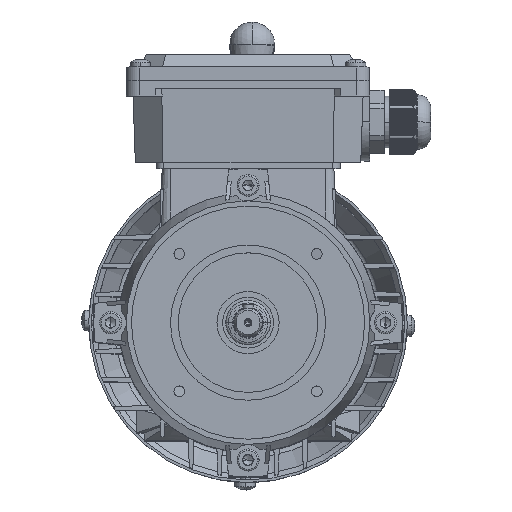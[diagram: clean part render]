
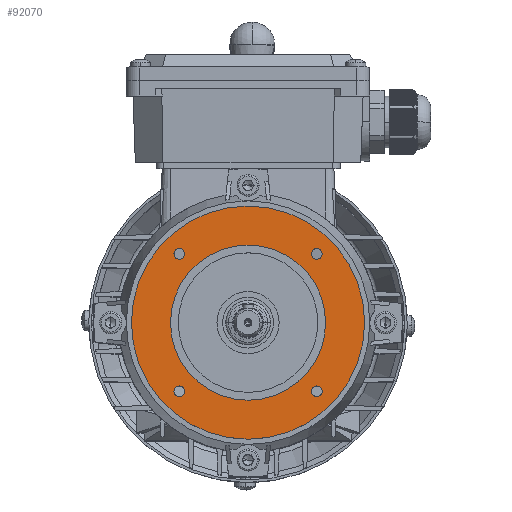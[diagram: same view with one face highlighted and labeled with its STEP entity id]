
A CAD part, top view. The second image highlights one B-rep face of the part: STEP entity #92070.
In plain terms, the highlighted planar face has unit normal (0, 0, 1).
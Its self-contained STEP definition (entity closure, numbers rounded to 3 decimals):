
#747 = DIRECTION ( 'NONE',  ( 1., 0., 0. ) ) ;
#1282 = CIRCLE ( 'NONE', #23683, 2.067 ) ;
#4042 = CIRCLE ( 'NONE', #90404, 2.067 ) ;
#4844 = ORIENTED_EDGE ( 'NONE', *, *, #24877, .F. ) ;
#8507 = CARTESIAN_POINT ( 'NONE',  ( -47.098, -0.551, 80.5 ) ) ;
#8542 = CIRCLE ( 'NONE', #93006, 2.067 ) ;
#9574 = DIRECTION ( 'NONE',  ( 0., 0., -1. ) ) ;
#10839 = CARTESIAN_POINT ( 'NONE',  ( -28.615, -27.067, 80.5 ) ) ;
#11089 = CARTESIAN_POINT ( 'NONE',  ( -28.615, 25.966, 80.5 ) ) ;
#11823 = CARTESIAN_POINT ( 'NONE',  ( -28.615, 28.033, 80.5 ) ) ;
#12352 = VERTEX_POINT ( 'NONE', #79761 ) ;
#14104 = DIRECTION ( 'NONE',  ( 0., -1., 0. ) ) ;
#15318 = ORIENTED_EDGE ( 'NONE', *, *, #43553, .T. ) ;
#15521 = DIRECTION ( 'NONE',  ( 0., -1., 0. ) ) ;
#16289 = CARTESIAN_POINT ( 'NONE',  ( -2.098, -0.551, 80.5 ) ) ;
#18531 = AXIS2_PLACEMENT_3D ( 'NONE', #88044, #62736, #71541 ) ;
#19356 = ORIENTED_EDGE ( 'NONE', *, *, #101704, .F. ) ;
#19531 = CARTESIAN_POINT ( 'NONE',  ( -2.098, -0.551, 80.5 ) ) ;
#21156 = DIRECTION ( 'NONE',  ( 1., 0., 0. ) ) ;
#22940 = EDGE_CURVE ( 'NONE', #91717, #88583, #51106, .T. ) ;
#23502 = DIRECTION ( 'NONE',  ( 0., 0., -1. ) ) ;
#23505 = DIRECTION ( 'NONE',  ( 0., -1., 0. ) ) ;
#23683 = AXIS2_PLACEMENT_3D ( 'NONE', #10839, #37772, #38348 ) ;
#23842 = DIRECTION ( 'NONE',  ( 0., -1., 0. ) ) ;
#24877 = EDGE_CURVE ( 'NONE', #26723, #33753, #83616, .T. ) ;
#25765 = DIRECTION ( 'NONE',  ( 1., 0., 0. ) ) ;
#25799 = EDGE_CURVE ( 'NONE', #55417, #72694, #33049, .T. ) ;
#26168 = ORIENTED_EDGE ( 'NONE', *, *, #105430, .T. ) ;
#26723 = VERTEX_POINT ( 'NONE', #104117 ) ;
#29100 = CARTESIAN_POINT ( 'NONE',  ( 24.418, -27.067, 80.5 ) ) ;
#29138 = FACE_BOUND ( 'NONE', #55492, .T. ) ;
#33049 = CIRCLE ( 'NONE', #100661, 29.945 ) ;
#33753 = VERTEX_POINT ( 'NONE', #8507 ) ;
#35650 = AXIS2_PLACEMENT_3D ( 'NONE', #58809, #68242, #23505 ) ;
#37261 = ORIENTED_EDGE ( 'NONE', *, *, #52774, .T. ) ;
#37772 = DIRECTION ( 'NONE',  ( 0., 0., -1. ) ) ;
#38348 = DIRECTION ( 'NONE',  ( 0., -1., 0. ) ) ;
#42660 = ORIENTED_EDGE ( 'NONE', *, *, #71825, .T. ) ;
#43553 = EDGE_CURVE ( 'NONE', #96579, #80122, #8542, .T. ) ;
#43810 = ORIENTED_EDGE ( 'NONE', *, *, #87833, .T. ) ;
#44614 = DIRECTION ( 'NONE',  ( 0., -1., 0. ) ) ;
#44786 = CARTESIAN_POINT ( 'NONE',  ( -28.615, 25.966, 80.5 ) ) ;
#45040 = EDGE_CURVE ( 'NONE', #88583, #91717, #60732, .T. ) ;
#47755 = ORIENTED_EDGE ( 'NONE', *, *, #45040, .T. ) ;
#50977 = EDGE_LOOP ( 'NONE', ( #47755, #74714 ) ) ;
#51106 = CIRCLE ( 'NONE', #64409, 2.067 ) ;
#52774 = EDGE_CURVE ( 'NONE', #97306, #12352, #95695, .T. ) ;
#53628 = CARTESIAN_POINT ( 'NONE',  ( -32.043, -0.551, 80.5 ) ) ;
#53973 = VERTEX_POINT ( 'NONE', #11823 ) ;
#55417 = VERTEX_POINT ( 'NONE', #90900 ) ;
#55466 = CIRCLE ( 'NONE', #100520, 2.067 ) ;
#55492 = EDGE_LOOP ( 'NONE', ( #100946, #26168 ) ) ;
#55647 = FACE_OUTER_BOUND ( 'NONE', #112732, .T. ) ;
#57530 = EDGE_LOOP ( 'NONE', ( #111183, #42660 ) ) ;
#58251 = CARTESIAN_POINT ( 'NONE',  ( 24.418, 23.899, 80.5 ) ) ;
#58435 = VERTEX_POINT ( 'NONE', #68809 ) ;
#58809 = CARTESIAN_POINT ( 'NONE',  ( 24.418, -27.067, 80.5 ) ) ;
#60224 = DIRECTION ( 'NONE',  ( 0., 0., -1. ) ) ;
#60426 = DIRECTION ( 'NONE',  ( 1., 0., 0. ) ) ;
#60601 = DIRECTION ( 'NONE',  ( 0., 0., -1. ) ) ;
#60732 = CIRCLE ( 'NONE', #73920, 2.067 ) ;
#62736 = DIRECTION ( 'NONE',  ( 0., 0., -1. ) ) ;
#64213 = AXIS2_PLACEMENT_3D ( 'NONE', #16289, #69238, #60426 ) ;
#64409 = AXIS2_PLACEMENT_3D ( 'NONE', #94627, #23502, #14104 ) ;
#65089 = FACE_BOUND ( 'NONE', #112640, .T. ) ;
#65432 = CARTESIAN_POINT ( 'NONE',  ( 24.418, 28.033, 80.5 ) ) ;
#66724 = AXIS2_PLACEMENT_3D ( 'NONE', #112748, #74697, #21156 ) ;
#66806 = CARTESIAN_POINT ( 'NONE',  ( -28.615, -29.134, 80.5 ) ) ;
#68242 = DIRECTION ( 'NONE',  ( 0., 0., -1. ) ) ;
#68809 = CARTESIAN_POINT ( 'NONE',  ( -28.615, 23.899, 80.5 ) ) ;
#69238 = DIRECTION ( 'NONE',  ( 0., 0., -1. ) ) ;
#70604 = CARTESIAN_POINT ( 'NONE',  ( -28.615, -27.067, 80.5 ) ) ;
#71541 = DIRECTION ( 'NONE',  ( 0., 1., 0. ) ) ;
#71825 = EDGE_CURVE ( 'NONE', #72694, #55417, #114780, .T. ) ;
#72694 = VERTEX_POINT ( 'NONE', #53628 ) ;
#73361 = FACE_BOUND ( 'NONE', #50977, .T. ) ;
#73607 = DIRECTION ( 'NONE',  ( 0., 0., -1. ) ) ;
#73920 = AXIS2_PLACEMENT_3D ( 'NONE', #111905, #60224, #15521 ) ;
#74697 = DIRECTION ( 'NONE',  ( 0., 0., -1. ) ) ;
#74714 = ORIENTED_EDGE ( 'NONE', *, *, #22940, .T. ) ;
#77037 = AXIS2_PLACEMENT_3D ( 'NONE', #29100, #107946, #109082 ) ;
#77077 = CARTESIAN_POINT ( 'NONE',  ( 24.418, -25., 80.5 ) ) ;
#78783 = DIRECTION ( 'NONE',  ( 0., 0., -1. ) ) ;
#79761 = CARTESIAN_POINT ( 'NONE',  ( 24.418, -29.134, 80.5 ) ) ;
#80122 = VERTEX_POINT ( 'NONE', #107448 ) ;
#80519 = CARTESIAN_POINT ( 'NONE',  ( -2.098, -0.551, 80.5 ) ) ;
#82259 = EDGE_CURVE ( 'NONE', #58435, #53973, #4042, .T. ) ;
#83616 = CIRCLE ( 'NONE', #66724, 45. ) ;
#83914 = FACE_BOUND ( 'NONE', #57530, .T. ) ;
#86448 = CIRCLE ( 'NONE', #35650, 2.067 ) ;
#87833 = EDGE_CURVE ( 'NONE', #12352, #97306, #86448, .T. ) ;
#88044 = CARTESIAN_POINT ( 'NONE',  ( 42.902, -0.551, 80.5 ) ) ;
#88583 = VERTEX_POINT ( 'NONE', #58251 ) ;
#90404 = AXIS2_PLACEMENT_3D ( 'NONE', #11089, #96491, #91086 ) ;
#90900 = CARTESIAN_POINT ( 'NONE',  ( 27.847, -0.551, 80.5 ) ) ;
#91086 = DIRECTION ( 'NONE',  ( 0., -1., 0. ) ) ;
#91717 = VERTEX_POINT ( 'NONE', #65432 ) ;
#92070 = ADVANCED_FACE ( 'NONE', ( #55647, #73361, #65089, #83914, #29138, #93231 ), #107901, .F. ) ;
#92469 = EDGE_LOOP ( 'NONE', ( #43810, #37261 ) ) ;
#93006 = AXIS2_PLACEMENT_3D ( 'NONE', #70604, #60601, #44614 ) ;
#93231 = FACE_BOUND ( 'NONE', #92469, .T. ) ;
#94627 = CARTESIAN_POINT ( 'NONE',  ( 24.418, 25.966, 80.5 ) ) ;
#95695 = CIRCLE ( 'NONE', #77037, 2.067 ) ;
#96491 = DIRECTION ( 'NONE',  ( 0., 0., -1. ) ) ;
#96579 = VERTEX_POINT ( 'NONE', #66806 ) ;
#96833 = EDGE_CURVE ( 'NONE', #80122, #96579, #1282, .T. ) ;
#97306 = VERTEX_POINT ( 'NONE', #77077 ) ;
#99959 = AXIS2_PLACEMENT_3D ( 'NONE', #19531, #73607, #747 ) ;
#100520 = AXIS2_PLACEMENT_3D ( 'NONE', #44786, #9574, #23842 ) ;
#100661 = AXIS2_PLACEMENT_3D ( 'NONE', #80519, #78783, #25765 ) ;
#100946 = ORIENTED_EDGE ( 'NONE', *, *, #82259, .T. ) ;
#101704 = EDGE_CURVE ( 'NONE', #33753, #26723, #112985, .T. ) ;
#104117 = CARTESIAN_POINT ( 'NONE',  ( 42.902, -0.551, 80.5 ) ) ;
#105430 = EDGE_CURVE ( 'NONE', #53973, #58435, #55466, .T. ) ;
#107448 = CARTESIAN_POINT ( 'NONE',  ( -28.615, -25., 80.5 ) ) ;
#107901 = PLANE ( 'NONE',  #18531 ) ;
#107946 = DIRECTION ( 'NONE',  ( 0., 0., -1. ) ) ;
#109082 = DIRECTION ( 'NONE',  ( 0., -1., 0. ) ) ;
#111183 = ORIENTED_EDGE ( 'NONE', *, *, #25799, .T. ) ;
#111905 = CARTESIAN_POINT ( 'NONE',  ( 24.418, 25.966, 80.5 ) ) ;
#112640 = EDGE_LOOP ( 'NONE', ( #15318, #113740 ) ) ;
#112732 = EDGE_LOOP ( 'NONE', ( #4844, #19356 ) ) ;
#112748 = CARTESIAN_POINT ( 'NONE',  ( -2.098, -0.551, 80.5 ) ) ;
#112985 = CIRCLE ( 'NONE', #99959, 45. ) ;
#113740 = ORIENTED_EDGE ( 'NONE', *, *, #96833, .T. ) ;
#114780 = CIRCLE ( 'NONE', #64213, 29.945 ) ;
